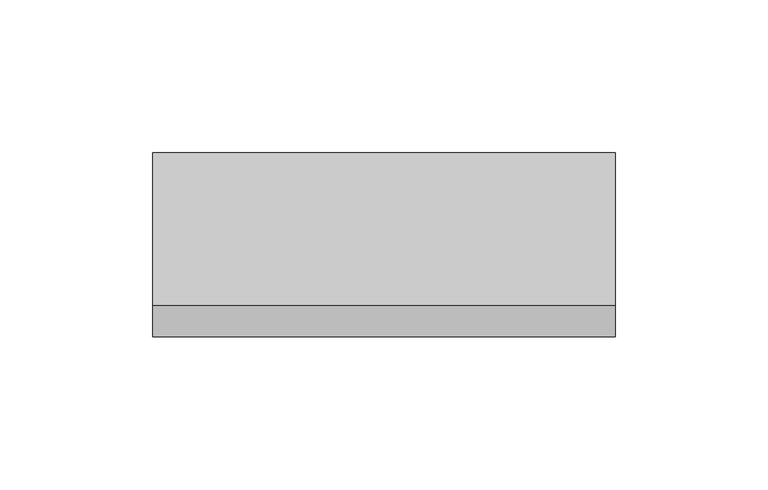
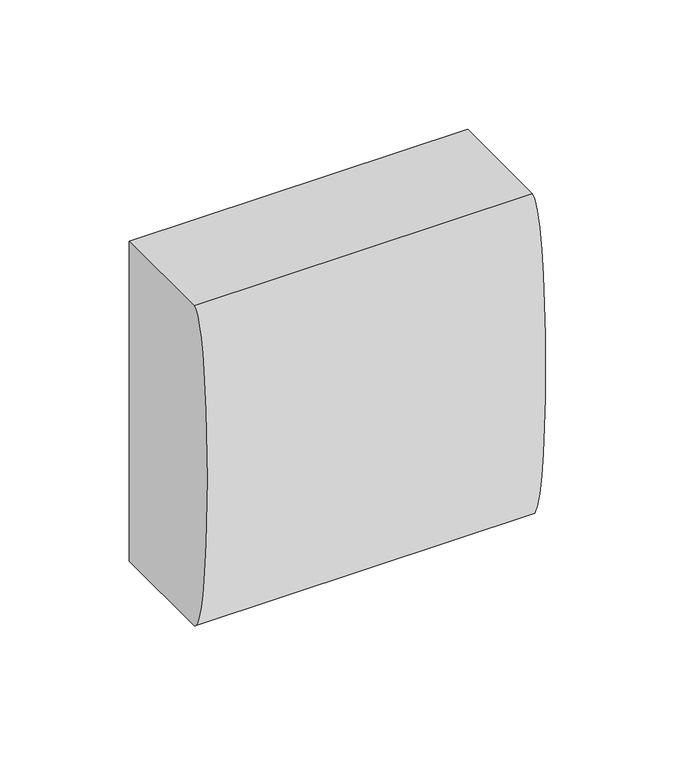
"""IFC4 building model written with IfcOpenShell, lengths in millimetres: proxy geometry, КНС_КоробкаРаспределительнаяSDN_ILC_DKC : SDN1 Коробка 151х151х60."""

from ifc_helpers import new_model, si_unit, point, frame, origin, place, context, project, spatial, ellipse_curve, trimmed, source, transform, mapped, element, save
from ifc_brep_helpers import plane_surface, extruded_surface, advanced_brep


def electrical_fixtures_fbb4b2cf(model_context):
    return source(origin(), model_context, "Body", "AdvancedBrep", [
        advanced_brep(
        [(75.5, -50.0, 75.5), (75.5, -50.0, -75.5), (75.5, 0.0, -75.5), (75.5, 0.0, 75.5), (-75.5, -50.0, 75.5), (-75.5, 0.0, 75.5), (-75.5, 0.0, -75.5), (-75.5, -50.0, -75.5)],
        [
            (0, 1, ellipse_curve(frame((75.5, -50.0, 0.0), z_axis=(1.0, 0.0, 0.0), x_axis=(0.0, 0.0, -1.0)), 75.5, 10.0)),
            (1, 2),
            (2, 3),
            (3, 0),
            (4, 5),
            (5, 6),
            (6, 7),
            (7, 4, ellipse_curve(frame((-75.5, -50.0, 0.0), z_axis=(-1.0, 0.0, 0.0), x_axis=(0.0, 0.0, -1.0)), 75.5, 10.0)),
            (0, 4),
            (7, 1),
            (6, 2),
            (5, 3),
        ],
        [
            plane_surface(frame((75.5, -50.0, -75.5), z_axis=(1.0, 0.0, 0.0), x_axis=(0.0, 1.0, 0.0))),
            plane_surface(frame((-75.5, -50.0, -75.5), z_axis=(-1.0, 0.0, 0.0), x_axis=(0.0, -1.0, 0.0))),
            extruded_surface(trimmed(ellipse_curve(frame((-226.5, -50.0, 0.0), z_axis=(1.0, 0.0, 0.0), x_axis=(0.0, 0.0, -1.0)), 75.5, 10.0), [point((-226.5, -50.0, 75.5))], [point((-226.5, -50.0, -75.5))], True, "CARTESIAN"), (151.0, 0.0, 0.0), 151.0),
            plane_surface(frame((75.5, -50.0, -75.5), z_axis=(0.0, 0.0, -1.0), x_axis=(-1.0, 0.0, 0.0))),
            plane_surface(frame((75.5, 0.0, -75.5), z_axis=(0.0, 1.0, 0.0), x_axis=(-1.0, 0.0, 0.0))),
            plane_surface(frame((75.5, 0.0, 75.5), z_axis=(0.0, 0.0, 1.0), x_axis=(-1.0, 0.0, 0.0))),
        ],
        [
            (0, [[1, 2, 3, 4]]),
            (1, [[5, 6, 7, 8]]),
            (2, [[-1, 9, -8, 10]]),
            (3, [[-2, -10, -7, 11]]),
            (4, [[-3, -11, -6, 12]]),
            (5, [[-4, -12, -5, -9]]),
        ],
    ),
    ])


if __name__ == "__main__":
    model = new_model("IFC4")
    model_context = context("Model", 3, world=origin())
    ifc_project = project(units=[si_unit("LENGTHUNIT", "METRE", prefix="MILLI")], contexts=[model_context])
    site = spatial("IfcSite", under=ifc_project)
    building = spatial("IfcBuilding", under=site)
    placement = place(None, origin())
    electrical_fixtures_shape = electrical_fixtures_fbb4b2cf(model_context)
    element("IfcBuildingElementProxy", 1, Name="КНС_КоробкаРаспределительнаяSDN_ILC_DKC : SDN1 Коробка 151х151х60", ObjectType="КНС_КоробкаРаспределительнаяSDN_ILC_DKC : SDN1 Коробка 151х151х60", at=placement, inside=building, context=model_context, shape_type="MappedRepresentation", body=[
        mapped(electrical_fixtures_shape, transform((0.0, 0.0, 0.0), x_axis=(1.0, 0.0, 0.0), y_axis=(0.0, 1.0, 0.0), z_axis=(0.0, 0.0, 1.0))),
    ])
    save(model, "model.ifc")
